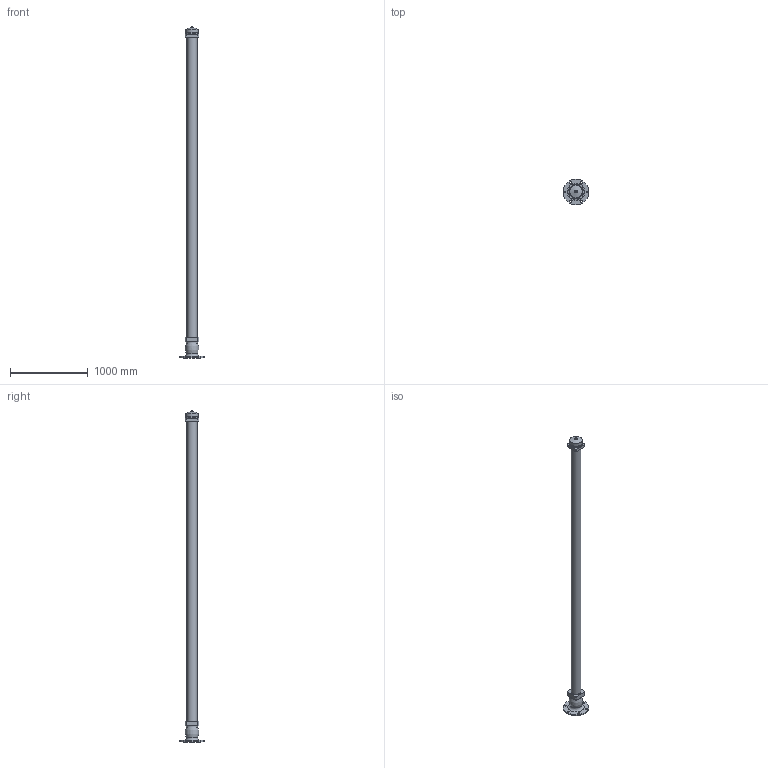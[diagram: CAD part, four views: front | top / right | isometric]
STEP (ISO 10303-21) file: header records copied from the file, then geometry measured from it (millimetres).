
FILE_DESCRIPTION(('STEP AP203'), '1');
FILE_NAME('Ãèäðàíò GPP 4250 ïîæàðíûé ïîäçåìíûé', '', ('UNSPECIFIED'), ('UNSPECIFIED'), 'ASCON STEP Converter 1.6', 'ASCON Math Kernel', '');
FILE_SCHEMA(('CONFIG_CONTROL_DESIGN'));
Length unit declared in the file: millimetre
Bounding box: 330 x 330 x 4272 mm (x, y, z)
Volume: 60215733.3 mm3; surface area: 2022695.1 mm2
Topology: 1 solids, 1 shells, 47 faces, 104 edges, 67 vertices
Faces by surface type: plane 26, cylinder 12, cone 7, torus 2
Full cylindrical faces by diameter (mm): 20 x1, 22 x6, 129 x1, 142 x1, 143 x1, 157.302 x1, 160 x1
Entity records: 1617 total; most frequent: DIRECTION 212, CARTESIAN_POINT 196, ORIENTED_EDGE 164, EDGE_LOOP 88, AXIS2_PLACEMENT_3D 82, EDGE_CURVE 82, VERTEX_POINT 66, COLOUR_RGB 48
